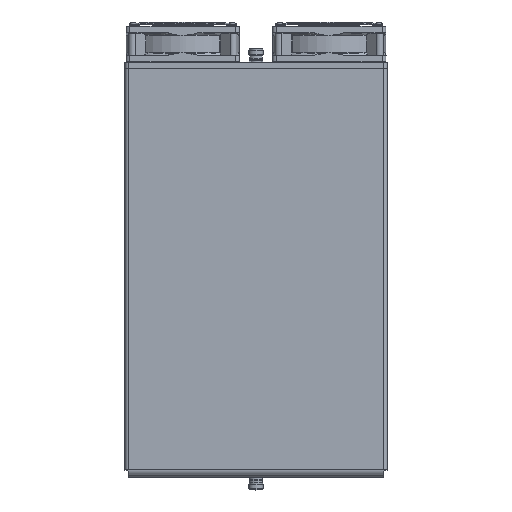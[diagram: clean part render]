
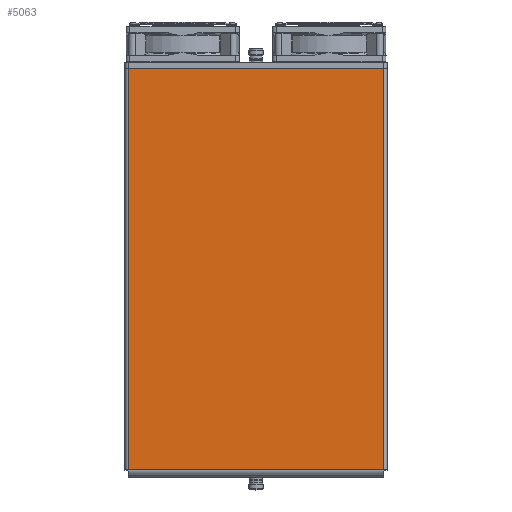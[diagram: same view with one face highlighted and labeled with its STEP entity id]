
A CAD part, top view. The second image highlights one B-rep face of the part: STEP entity #5063.
In plain terms, the highlighted planar face has unit normal (0, 0, 1).
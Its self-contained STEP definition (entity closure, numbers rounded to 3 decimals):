
#5063=ADVANCED_FACE('',(#21014),#21016,.T.);
#21014=FACE_BOUND('',#21015,.T.);
#21015=EDGE_LOOP('',(#38544,#38545,#38546,#38547));
#21016=PLANE('',#21017);
#21017=AXIS2_PLACEMENT_3D('',#21018,#21019,#21020);
#21018=CARTESIAN_POINT('',(0.,0.,121.5));
#21019=DIRECTION('',(0.,0.,1.));
#21020=DIRECTION('',(0.,-1.,0.));
#38544=ORIENTED_EDGE('',*,*,#46996,.T.);
#38545=ORIENTED_EDGE('',*,*,#47007,.T.);
#38546=ORIENTED_EDGE('',*,*,#47008,.T.);
#38547=ORIENTED_EDGE('',*,*,#47009,.T.);
#46996=EDGE_CURVE('',#52120,#52118,#52121,.T.);
#47007=EDGE_CURVE('',#52118,#52137,#52138,.T.);
#47008=EDGE_CURVE('',#52137,#52139,#52140,.T.);
#47009=EDGE_CURVE('',#52139,#52120,#52141,.T.);
#52118=VERTEX_POINT('',#61507);
#52120=VERTEX_POINT('',#61512);
#52121=LINE('',#61513,#61514);
#52137=VERTEX_POINT('',#61553);
#52138=LINE('',#61554,#61555);
#52139=VERTEX_POINT('',#61557);
#52140=LINE('',#61558,#61559);
#52141=LINE('',#61561,#61562);
#61507=CARTESIAN_POINT('',(135.,212.5,121.5));
#61512=CARTESIAN_POINT('',(135.,-212.5,121.5));
#61513=CARTESIAN_POINT('',(135.,-212.5,121.5));
#61514=VECTOR('',#61515,1.);
#61515=DIRECTION('',(0.,1.,0.));
#61553=CARTESIAN_POINT('',(-135.,212.5,121.5));
#61554=CARTESIAN_POINT('',(135.,212.5,121.5));
#61555=VECTOR('',#61556,1.);
#61556=DIRECTION('',(-1.,0.,0.));
#61557=CARTESIAN_POINT('',(-135.,-212.5,121.5));
#61558=CARTESIAN_POINT('',(-135.,212.5,121.5));
#61559=VECTOR('',#61560,1.);
#61560=DIRECTION('',(0.,-1.,0.));
#61561=CARTESIAN_POINT('',(-135.,-212.5,121.5));
#61562=VECTOR('',#61563,1.);
#61563=DIRECTION('',(1.,0.,0.));
